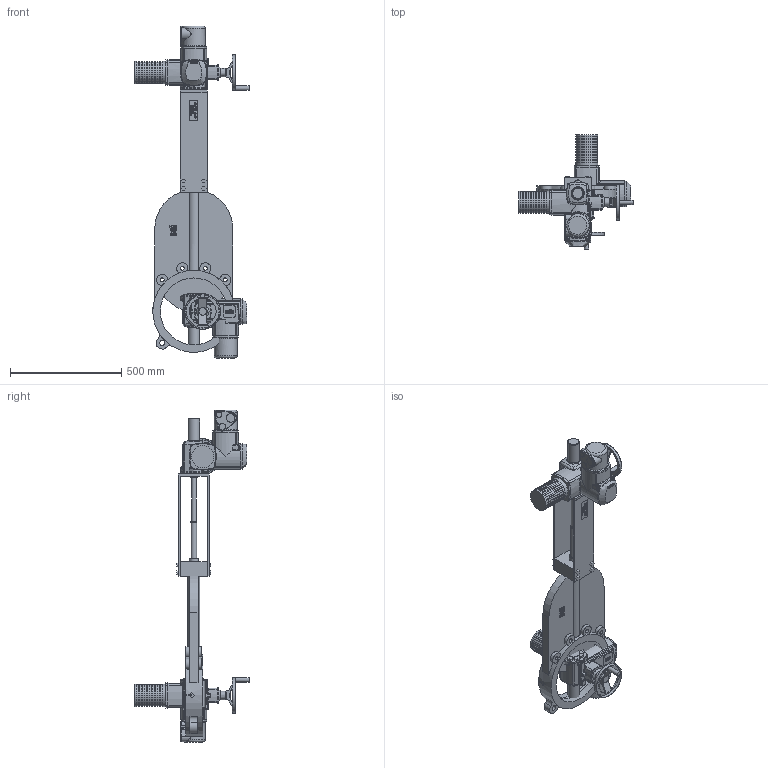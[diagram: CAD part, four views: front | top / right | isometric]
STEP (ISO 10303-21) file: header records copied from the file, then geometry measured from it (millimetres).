
FILE_DESCRIPTION( ( 'Unknown' ), '1' );
FILE_NAME( 'J:/Muud/ROOTSI BPS 3D vidinad/Nugasiibrid/Knife gate valve with electric actuator BPS/STEP formaat/BPS 2010300E knife gate valve DN300.stp', 'Unknown', ( 'Unknown' ), ( 'Unknown' ), 'PSStep 10.1', 'Unknown', ' ' );
FILE_SCHEMA( ( 'AUTOMOTIVE_DESIGN { 1 0 10303 214 1 1 1 1 }' ) );
Length unit declared in the file: millimetre
Products named in the file (3): Assem1; Knife gate valve for electric drive DN300 BPS; AUMA electric actuator sa07.1(sa07.5)
Bounding box: 511.9 x 511.9 x 1489 mm (x, y, z)
Volume: 36041048.5 mm3; surface area: 2757545.1 mm2
Topology: 4 solids, 4 shells, 2868 faces, 6906 edges, 4326 vertices
Faces by surface type: extrusion 1046, plane 650, cylinder 548, bspline 330, cone 154, torus 94, sphere 46
Full cylindrical faces by diameter (mm): 4.917 x8, 6.647 x8, 17.294 x8, 20 x6, 23 x4, 24 x4, 25 x4, 25.5 x2, 30 x8, 34 x2, 38.3 x2, 40 x2, 51.5 x2, 55 x2, 90 x2, 95 x20, 100 x22, 120 x2, 160 x2, 300 x4, 368 x2
Entity records: 73340 total; most frequent: CARTESIAN_POINT 31463, ORIENTED_EDGE 6566, DIRECTION 4923, EDGE_CURVE 3283, VERTEX_POINT 2134, VECTOR 1981, EDGE_LOOP 1725, B_SPLINE_CURVE_WITH_KNOTS 1626
